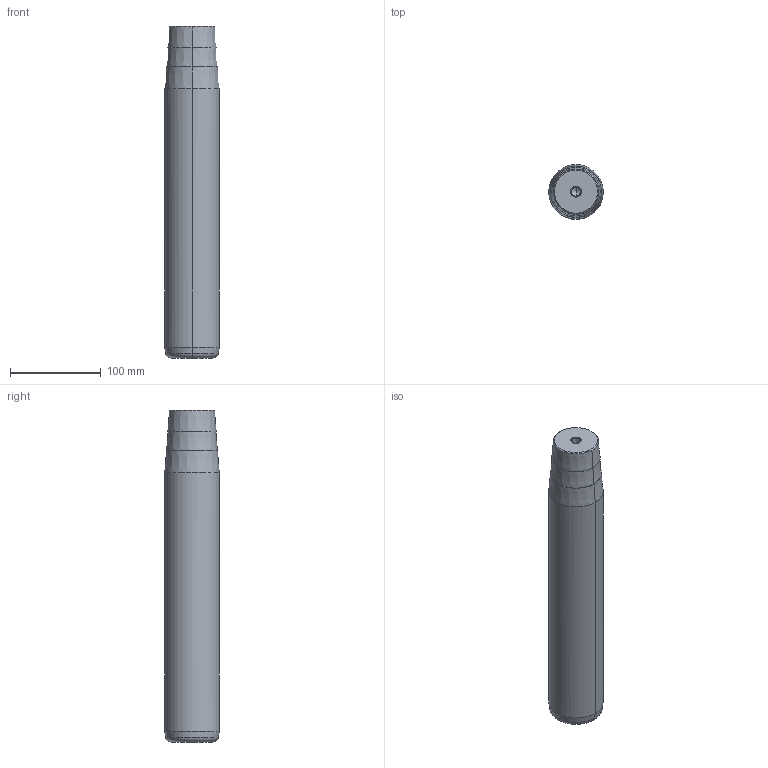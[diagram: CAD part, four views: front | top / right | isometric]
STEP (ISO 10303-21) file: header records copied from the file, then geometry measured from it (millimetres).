
FILE_DESCRIPTION(('CATIA V5 STEP Exchange'),'2;1');
FILE_NAME('C:\Users\Utente\Desktop\IO LAVORO\3D X SITO CF\X SITO\722\722-60x315x366.stp','2021-01-07T19:28:30+00:00',('none'),('none'),'CATIA Version 5 Release 20 GA (IN-10)','CATIA V5 STEP AP203','none');
FILE_SCHEMA(('CONFIG_CONTROL_DESIGN'));
Length unit declared in the file: millimetre
Products named in the file (1): 722-60x315x366
Bounding box: 60 x 60 x 366 mm (x, y, z)
Volume: 994945.9 mm3; surface area: 73736.6 mm2
Topology: 1 solids, 1 shells, 32 faces, 98 edges, 66 vertices
Faces by surface type: cone 22, cylinder 6, plane 2, torus 2
Entity records: 1172 total; most frequent: CARTESIAN_POINT 285, ORIENTED_EDGE 188, DIRECTION 148, EDGE_CURVE 94, AXIS2_PLACEMENT_3D 89, VERTEX_POINT 66, CIRCLE 56, EDGE_LOOP 34
